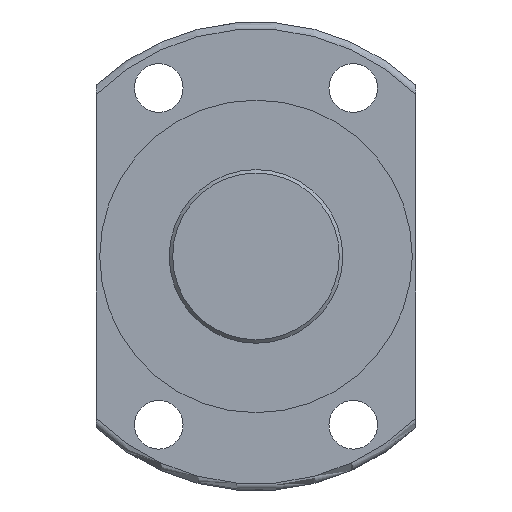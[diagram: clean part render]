
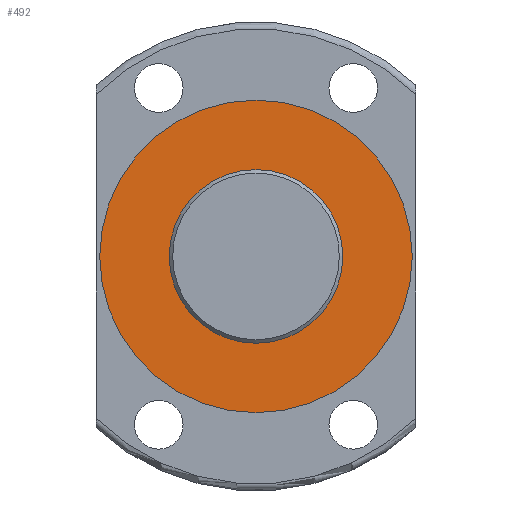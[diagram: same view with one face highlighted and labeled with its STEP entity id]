
A CAD part, left-side view. The second image highlights one B-rep face of the part: STEP entity #492.
In plain terms, the highlighted planar face has unit normal (-1, 0, 0).
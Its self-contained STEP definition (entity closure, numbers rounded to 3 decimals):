
#63=PLANE('',#563);
#89=CIRCLE('',#530,25.);
#107=CIRCLE('',#564,45.);
#192=ORIENTED_EDGE('',*,*,#272,.F.);
#193=ORIENTED_EDGE('',*,*,#240,.F.);
#240=EDGE_CURVE('',#297,#297,#89,.T.);
#272=EDGE_CURVE('',#321,#321,#107,.T.);
#297=VERTEX_POINT('',#769);
#321=VERTEX_POINT('',#881);
#382=EDGE_LOOP('',(#192));
#383=EDGE_LOOP('',(#193));
#439=FACE_BOUND('',#382,.T.);
#440=FACE_BOUND('',#383,.T.);
#492=ADVANCED_FACE('',(#439,#440),#63,.F.);
#530=AXIS2_PLACEMENT_3D('',#768,#604,#605);
#563=AXIS2_PLACEMENT_3D('',#879,#676,#677);
#564=AXIS2_PLACEMENT_3D('',#880,#678,#679);
#604=DIRECTION('',(-1.,0.,0.));
#605=DIRECTION('',(0.,-1.,0.));
#676=DIRECTION('',(1.,0.,0.));
#677=DIRECTION('',(0.,0.,-1.));
#678=DIRECTION('',(1.,0.,0.));
#679=DIRECTION('',(0.,0.,-1.));
#768=CARTESIAN_POINT('',(219.212,110.794,0.));
#769=CARTESIAN_POINT('',(219.212,85.794,0.));
#879=CARTESIAN_POINT('',(219.212,151.044,0.));
#880=CARTESIAN_POINT('',(219.212,110.794,0.));
#881=CARTESIAN_POINT('',(219.212,110.794,-45.));
